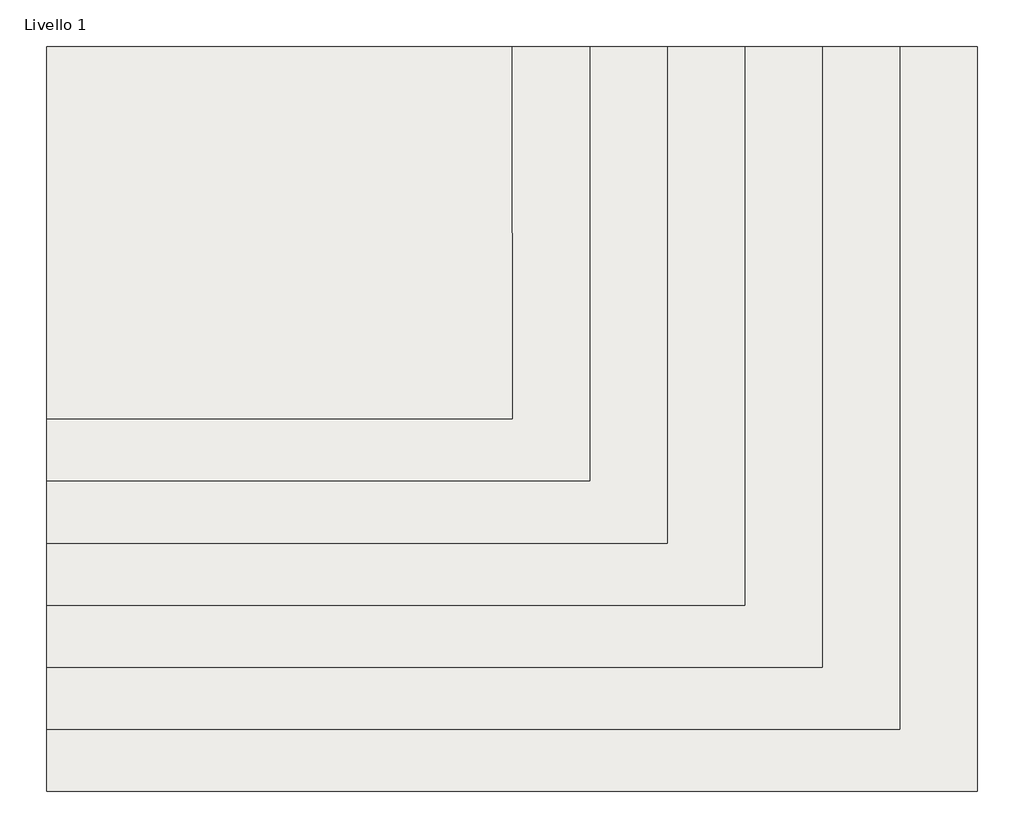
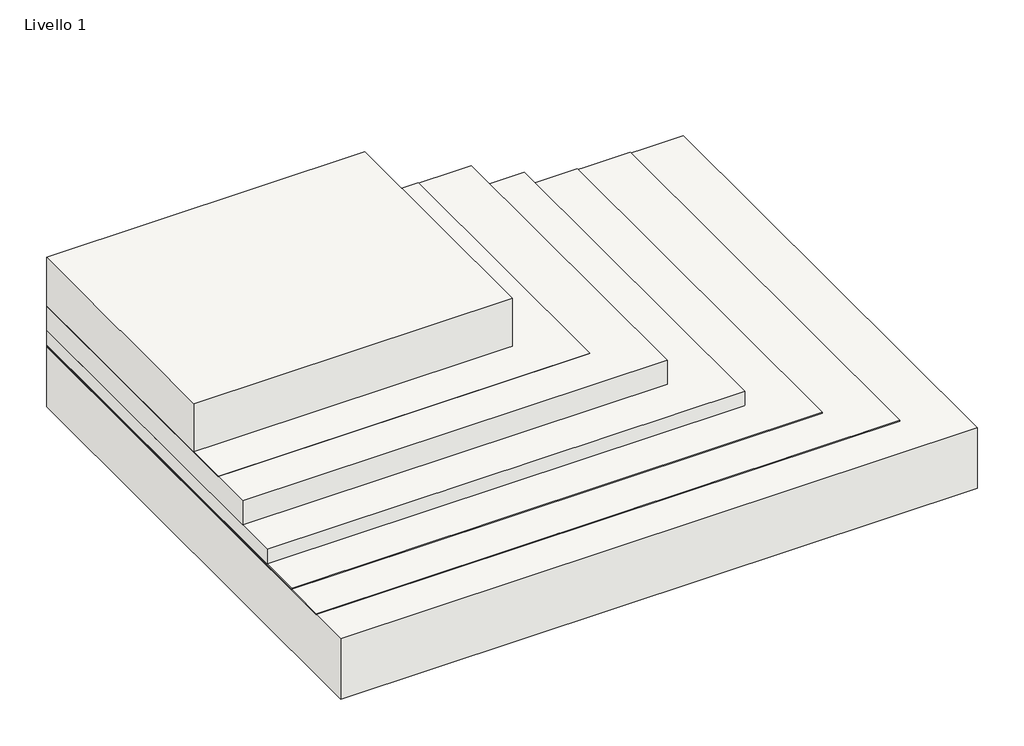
# One storey: 1 slab.
"""IFC4 building model written with IfcOpenShell, lengths in millimetres."""

from ifc_helpers import new_model, si_unit, frame, origin, place, context, project, spatial, polyline, outline, extrude, element, save

model = new_model("IFC4")

# Units and contexts
model_context = context("Model", 3, world=origin())
ifc_project = project(units=[si_unit("LENGTHUNIT", "METRE", prefix="MILLI")], contexts=[model_context])

# Site, building, storey
site = spatial("IfcSite", under=ifc_project)
building = spatial("IfcBuilding", under=site)
storey = spatial("IfcBuildingStorey", under=building, Name="Livello 1", Elevation=0.0)

# Slab
placement = place(None, origin())
element("IfcSlab", 1, ObjectType="POLYGLASS - BM6.0", at=placement, inside=storey, context=model_context, shape_type="SweptSolid", body=[
    extrude(outline(polyline([(1457.7963918, 1184.9122843), (207.7963918, 1184.9122843), (207.7963918, 2184.9122843), (1457.7963918, 2184.9122843), (1457.7963918, 1184.9122843)])), frame((0.0, 0.0, -200.0), z_axis=(0.0, 0.0, 1.0), x_axis=(1.0, 0.0, 0.0)), (0.0, 0.0, 1.0), 200.0),
    extrude(outline(polyline([(1666.1297251, 1018.2456176), (207.7963918, 1018.2456176), (207.7963918, 2184.9122843), (1666.1297251, 2184.9122843), (1666.1297251, 1018.2456176)])), frame((0.0, 0.0, -202.0), z_axis=(0.0, 0.0, 1.0), x_axis=(1.0, 0.0, 0.0)), (0.0, 0.0, 1.0), 2.0),
    extrude(outline(polyline([(1874.4630584, 851.578951), (207.7963918, 851.578951), (207.7963918, 2184.9122843), (1874.4630584, 2184.9122843), (1874.4630584, 851.578951)])), frame((0.0, 0.0, -302.0), z_axis=(0.0, 0.0, 1.0), x_axis=(1.0, 0.0, 0.0)), (0.0, 0.0, 1.0), 100.0),
    extrude(outline(polyline([(2082.7963918, 684.9122843), (207.7963918, 684.9122843), (207.7963918, 2184.9122843), (2082.7963918, 2184.9122843), (2082.7963918, 684.9122843)])), frame((0.0, 0.0, -362.0), z_axis=(0.0, 0.0, 1.0), x_axis=(1.0, 0.0, 0.0)), (0.0, 0.0, 1.0), 60.0),
    extrude(outline(polyline([(2291.1297251, 518.2456176), (207.7963918, 518.2456176), (207.7963918, 2184.9122843), (2291.1297251, 2184.9122843), (2291.1297251, 518.2456176)])), frame((0.0, 0.0, -366.3), z_axis=(0.0, 0.0, 1.0), x_axis=(1.0, 0.0, 0.0)), (0.0, 0.0, 1.0), 4.3),
    extrude(outline(polyline([(2499.4630584, 351.578951), (207.7963918, 351.578951), (207.7963918, 2184.9122843), (2499.4630584, 2184.9122843), (2499.4630584, 351.578951)])), frame((0.0, 0.0, -370.4), z_axis=(0.0, 0.0, 1.0), x_axis=(1.0, 0.0, 0.0)), (0.0, 0.0, 1.0), 4.1),
    extrude(outline(polyline([(2707.7963918, 184.9122843), (207.7963918, 184.9122843), (207.7963918, 2184.9122843), (2707.7963918, 2184.9122843), (2707.7963918, 184.9122843)])), frame((0.0, 0.0, -620.4), z_axis=(0.0, 0.0, 1.0), x_axis=(1.0, 0.0, 0.0)), (0.0, 0.0, 1.0), 250.0),
])

save(model, "model.ifc")
